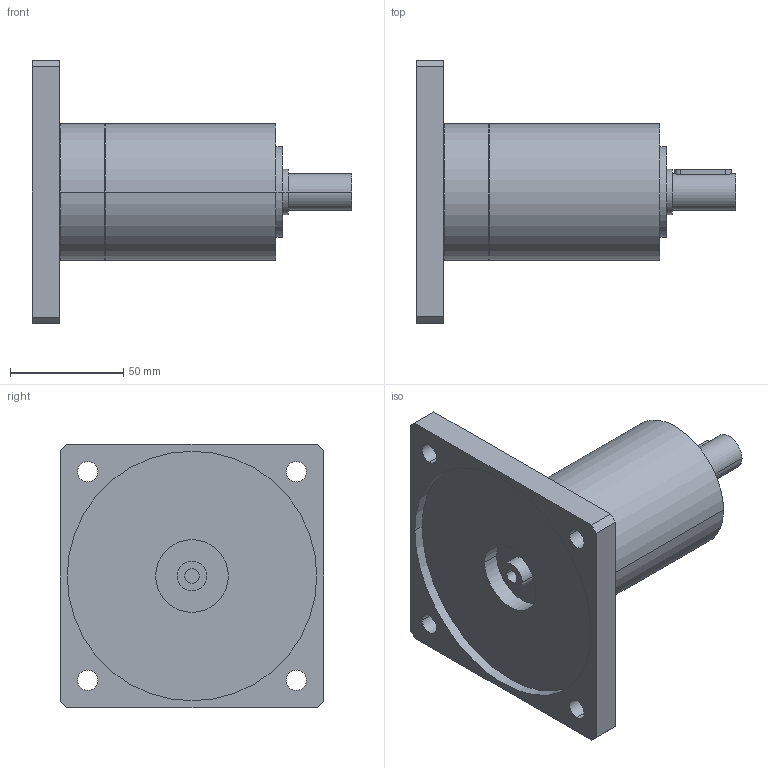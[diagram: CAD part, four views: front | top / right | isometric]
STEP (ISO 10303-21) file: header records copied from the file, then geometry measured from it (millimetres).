
FILE_DESCRIPTION(('CoCreate Modeling STEP Export'),'2;1');
FILE_NAME('GPR75_ig-9-12-16-20-24-30-36_16_B14_6.35_P09.stp','2014-08-25T16:03:58',(''),(''),'CoCreate Modeling STEP processor for AP214 (Solid Model)','CoCreate Modeling 16.00C 25-Feb-2009 (C) Parametric Technology GmbH','');
FILE_SCHEMA(('AUTOMOTIVE_DESIGN { 1 0 10303 214 1 1 1 1 }'));
Length unit declared in the file: millimetre
Products named in the file (2): GPR75_ig-9-12-16-20-24-30-36_16_B14_6.35_P09
Assembly tree (1 placements, depth 2):
  GPR75_ig-9-12-16-20-24-30-36_16_B14_6.35_P09
    GPR75_ig-9-12-16-20-24-30-36_16_B14_6.35_P09
Bounding box: 140.9 x 116 x 116 mm (x, y, z)
Volume: 388856.8 mm3; surface area: 57190.2 mm2
Topology: 1 solids, 1 shells, 70 faces, 187 edges, 131 vertices
Faces by surface type: cylinder 42, plane 22, cone 6
Entity records: 1934 total; most frequent: ORIENTED_EDGE 370, CARTESIAN_POINT 359, DIRECTION 262, EDGE_CURVE 185, VERTEX_POINT 131, AXIS2_PLACEMENT_3D 98, EDGE_LOOP 92, FACE_OUTER_BOUND 70
